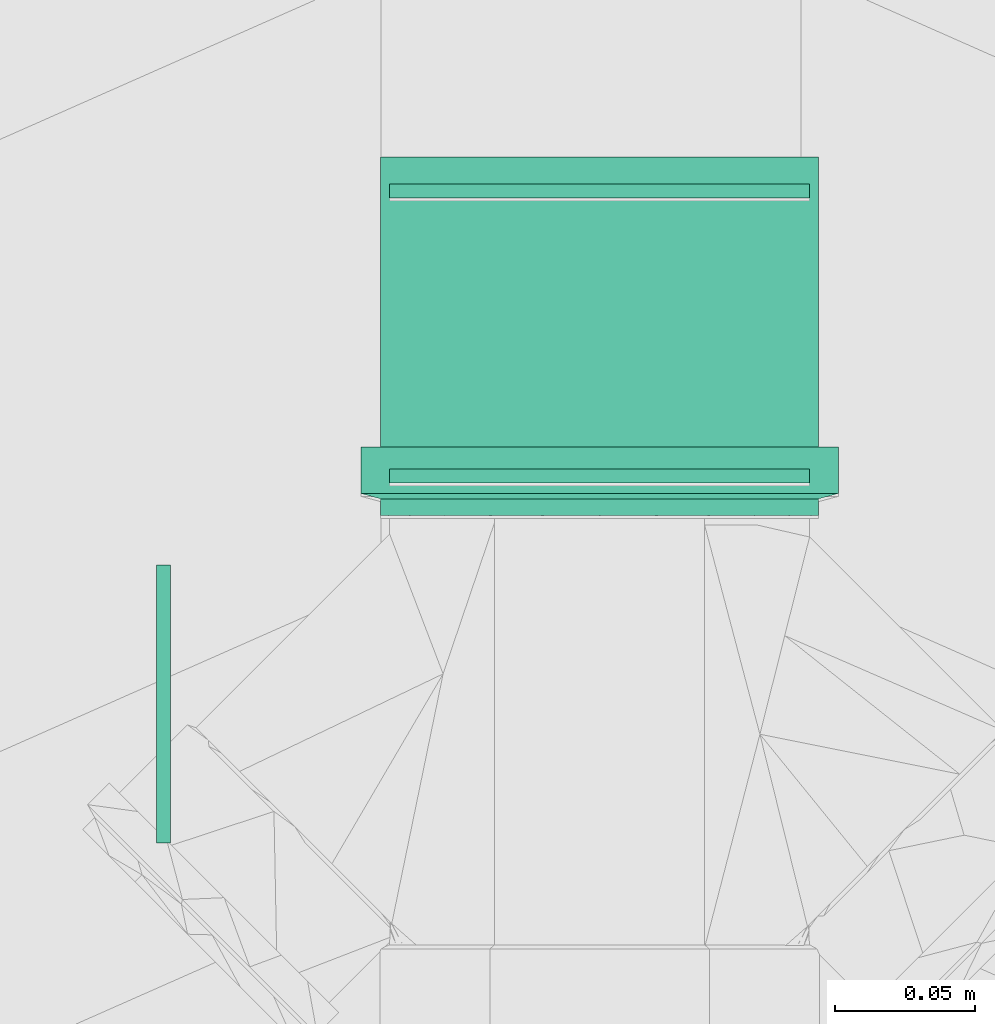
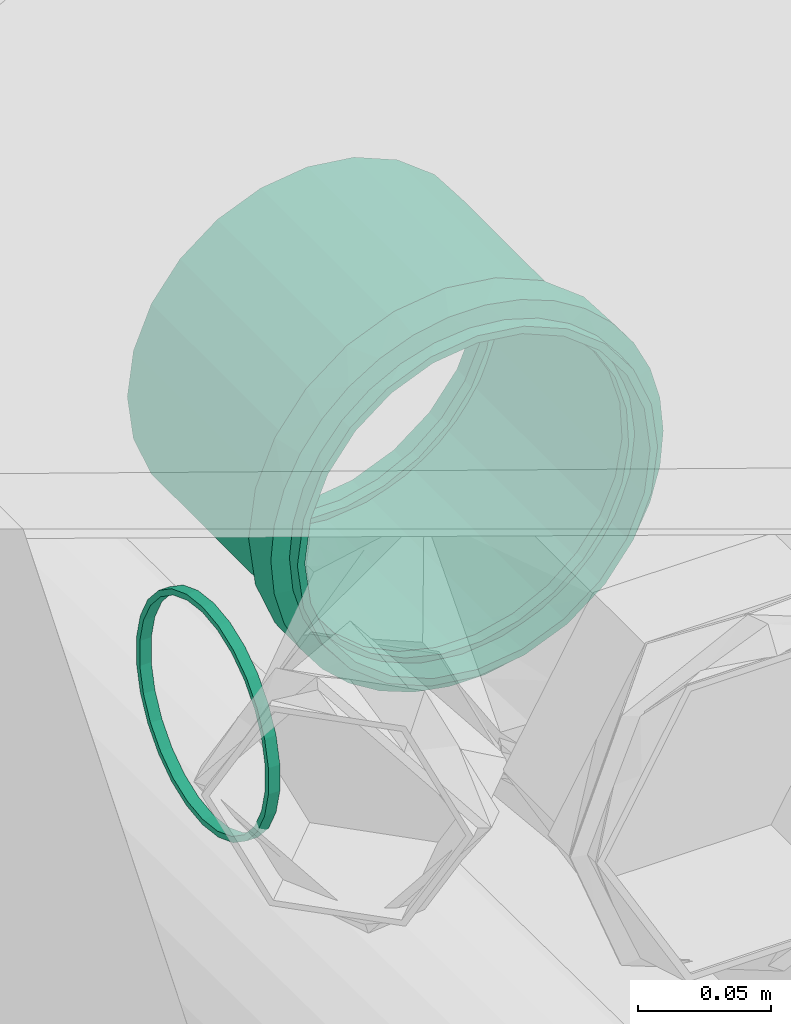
# One storey, part 104 of 166: 4 flow fittings.
"""IFC2X3 building model written with IfcOpenShell, lengths in metres."""

from ifc_helpers import new_model, entity, si_unit, converted_unit, direction, frame, frame_2d, origin, place, context, subcontext, project, spatial, hollow_circle, extrude, faceted_brep, source, transform, mapped, material, type_object, type_shapes, element, save


model = new_model("IFC2X3")

# Units and contexts
model_context = context("Model", 3, precision=1e-05, world=origin(), true_north=direction((6.123233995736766e-17, 1.0)))
body_context = subcontext(model_context, "Body", "Model", "MODEL_VIEW")
ifc_project = project(units=[si_unit("LENGTHUNIT", "METRE"), converted_unit("PLANEANGLEUNIT", "DEGREE", entity("IfcPlaneAngleMeasure", 0.017453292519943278), si_unit("PLANEANGLEUNIT", "RADIAN"), dimensions=[0, 0, 0, 0, 0, 0, 0]), si_unit("AREAUNIT", "SQUARE_METRE")], contexts=[model_context])

# Site, building, storey
site_placement = place(None, origin())
site = spatial("IfcSite", under=ifc_project, at=site_placement, Name="Default", CompositionType="ELEMENT")
building_placement = place(site_placement, origin())
building = spatial("IfcBuilding", under=site, at=building_placement, Name="CASA DE ACOLHIDA PARA IDOSOS", CompositionType="ELEMENT")
storey_placement = place(building_placement, frame((0.0, 0.0, -1.7499999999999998)))
storey = spatial("IfcBuildingStorey", under=building, at=storey_placement, Name="IMPLANTAÇÃO DRENAGEM", CompositionType="ELEMENT", Elevation=-1.7499999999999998)

# Flow fittings
ifc_material_1 = material(Name="PVC Bege Pérola")
pipe_fitting_type_1 = type_object("IfcPipeFittingType", Name="PLUV_Serie Reforcada_Luva Simples:Standard", PredefinedType="NOTDEFINED", material=ifc_material_1)
shared_shape_1 = source(origin(), body_context, "Body", "Brep", [
    faceted_brep([(0.02451000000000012, -0.039124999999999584, -0.06776648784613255), (0.02451000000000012, -0.06028085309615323, -0.06028085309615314), (0.02451000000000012, -0.04262500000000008, -0.07382866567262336), (0.02451000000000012, -0.020252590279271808, -0.0755836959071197), (0.02451000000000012, -0.05533110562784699, -0.055331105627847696), (0.02451000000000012, -0.07382866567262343, -0.04262499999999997), (0.02451000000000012, -0.06776648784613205, -0.03912500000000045), (0.02451000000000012, -0.07558369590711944, -0.02025259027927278), (0.02451000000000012, -0.08234517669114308, -0.022064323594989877), (0.02451000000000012, -0.07825, 0.0), (0.02451000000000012, -0.08525, 0.0), (0.02451000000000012, -0.07558369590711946, 0.020252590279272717), (0.02451000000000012, -0.0823451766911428, 0.022064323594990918), (0.02451000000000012, -0.06776648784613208, 0.039125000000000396), (0.02451000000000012, -0.07382866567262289, 0.04262500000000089), (0.02451000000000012, -0.05533110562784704, 0.055331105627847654), (0.02451000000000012, -0.06028085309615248, 0.0602808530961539), (0.02451000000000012, -0.03912499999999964, 0.06776648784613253), (0.02451000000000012, -0.04262499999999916, 0.07382866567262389), (0.02451000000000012, -0.020252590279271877, 0.07558369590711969), (0.02451000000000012, -0.02206432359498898, 0.08234517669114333), (0.02451000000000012, 0.0, 0.07825), (0.02451000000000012, 0.0, 0.08525), (0.02451000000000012, 0.020252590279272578, 0.0755836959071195), (0.02451000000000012, 0.022064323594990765, 0.08234517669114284), (0.02451000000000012, 0.03912500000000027, 0.06776648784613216), (0.02451000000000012, 0.042625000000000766, 0.07382866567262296), (0.02451000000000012, 0.05533110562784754, 0.055331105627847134), (0.02451000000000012, 0.0602808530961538, 0.06028085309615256), (0.02451000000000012, 0.06776648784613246, 0.03912499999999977), (0.02451000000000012, 0.07382866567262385, 0.042624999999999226), (0.02451000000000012, 0.08234517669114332, 0.02206432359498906), (0.02451000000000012, 0.07558369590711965, 0.020252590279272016), (0.02451000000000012, 0.08525, 0.0), (0.02451000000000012, 0.07825, 0.0), (0.02451000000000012, 0.08234517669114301, -0.022064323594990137), (0.02451000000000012, 0.07558369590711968, -0.020252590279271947), (0.02451000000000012, 0.07382866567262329, -0.04262500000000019), (0.02451000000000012, 0.0677664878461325, -0.03912499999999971), (0.02451000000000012, 0.060280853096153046, -0.060280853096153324), (0.02451000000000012, 0.05533110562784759, -0.055331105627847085), (0.02451000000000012, 0.042624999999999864, -0.0738286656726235), (0.02451000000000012, 0.039125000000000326, -0.06776648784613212), (0.02451000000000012, 0.02206432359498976, -0.08234517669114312), (0.02451000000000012, 0.02025259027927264, -0.07558369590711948), (0.02451000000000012, 0.0, -0.08525), (0.02451000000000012, 0.0, -0.07825), (0.02451000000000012, -0.022064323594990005, -0.08234517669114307), (0.007830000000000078, 0.08379835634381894, 0.01566518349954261), (0.007830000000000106, 0.07949286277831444, 0.03079687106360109), (0.007830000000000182, 0.05137242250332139, 0.06803261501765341), (0.007830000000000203, 0.03799626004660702, 0.07631413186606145), (0.007830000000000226, 0.00786152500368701, 0.08488674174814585), (0.00783000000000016, 0.06299903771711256, 0.057434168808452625), (0.007830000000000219, 0.023326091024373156, 0.08199668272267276), (0.007830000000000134, 0.07248014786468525, 0.044879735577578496), (0.00783000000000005, 0.08525, 0.0), (0.00783000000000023, -0.007870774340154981, 0.08488588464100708), (0.007830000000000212, -0.03800457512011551, 0.07630999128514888), (0.007830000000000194, -0.05137983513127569, 0.06802701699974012), (0.007830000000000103, -0.07949621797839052, 0.030788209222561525), (0.007830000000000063, -0.08380006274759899, 0.015656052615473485), (0.007830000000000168, -0.06300529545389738, 0.05742730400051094), (0.00783000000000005, -0.08525, 0.0), (0.007830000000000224, -0.023335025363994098, 0.08199414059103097), (0.007830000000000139, -0.07248503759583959, 0.04487183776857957), (0.007830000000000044, -0.08380006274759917, -0.015656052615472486), (0.007830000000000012, -0.07949621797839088, -0.03078820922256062), (0.00782999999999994, -0.05137983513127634, -0.06802701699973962), (0.007829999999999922, -0.038004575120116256, -0.07630999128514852), (0.007829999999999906, -0.007870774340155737, -0.084885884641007), (0.00782999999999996, -0.063005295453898, -0.05742730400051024), (0.007829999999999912, -0.023335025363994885, -0.08199414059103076), (0.007829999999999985, -0.07248503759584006, -0.04487183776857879), (0.007829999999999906, 0.007861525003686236, -0.0848867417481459), (0.007829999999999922, 0.037996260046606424, -0.07631413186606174), (0.007829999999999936, 0.05137242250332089, -0.06803261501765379), (0.00783, 0.07949286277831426, -0.030796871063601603), (0.007830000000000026, 0.08379835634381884, -0.015665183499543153), (0.007829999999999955, 0.06299903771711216, -0.057434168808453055), (0.007829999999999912, 0.023326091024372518, -0.08199668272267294), (0.007829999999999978, 0.07248014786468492, -0.044879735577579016), (0.1280100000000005, -0.0374999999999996, -0.06495190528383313), (0.1280100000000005, -0.055331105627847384, -0.05533110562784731), (0.1280100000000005, -0.03912500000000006, -0.06776648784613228), (0.1280100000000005, -0.01941142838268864, -0.07244443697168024), (0.1280100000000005, -0.05303300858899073, -0.053033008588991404), (0.1280100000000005, -0.06776648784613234, -0.039124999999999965), (0.1280100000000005, -0.06495190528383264, -0.03750000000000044), (0.1280100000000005, -0.07244443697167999, -0.01941142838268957), (0.1280100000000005, -0.07558369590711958, -0.020252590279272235), (0.1280100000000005, -0.07500000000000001, 0.0), (0.1280100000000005, -0.07825, 0.0), (0.1280100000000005, -0.07244443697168, 0.019411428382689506), (0.1280100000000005, -0.07558369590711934, 0.020252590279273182), (0.1280100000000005, -0.06495190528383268, 0.03750000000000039), (0.1280100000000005, -0.06776648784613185, 0.03912500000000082), (0.1280100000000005, -0.05303300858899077, 0.05303300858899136), (0.1280100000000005, -0.0553311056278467, 0.055331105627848), (0.1280100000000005, -0.03749999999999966, 0.0649519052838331), (0.1280100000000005, -0.039124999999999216, 0.06776648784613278), (0.1280100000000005, -0.0194114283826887, 0.07244443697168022), (0.1280100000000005, -0.020252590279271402, 0.07558369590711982), (0.1280100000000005, 0.0, 0.07500000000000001), (0.1280100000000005, 0.0, 0.07825), (0.1280100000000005, 0.019411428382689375, 0.07244443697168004), (0.1280100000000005, 0.020252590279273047, 0.07558369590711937), (0.1280100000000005, 0.03750000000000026, 0.06495190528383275), (0.1280100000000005, 0.039125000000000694, 0.06776648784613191), (0.1280100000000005, 0.05303300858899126, 0.05303300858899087), (0.1280100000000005, 0.055331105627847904, 0.05533110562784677), (0.1280100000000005, 0.06495190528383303, 0.037499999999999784), (0.1280100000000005, 0.06776648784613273, 0.039124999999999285), (0.1280100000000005, 0.0755836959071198, 0.02025259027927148), (0.1280100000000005, 0.07244443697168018, 0.019411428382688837), (0.1280100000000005, 0.07825, 0.0), (0.1280100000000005, 0.07500000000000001, 0.0), (0.1280100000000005, 0.07558369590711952, -0.020252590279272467), (0.1280100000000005, 0.0724444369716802, -0.01941142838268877), (0.1280100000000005, 0.06776648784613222, -0.039125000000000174), (0.1280100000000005, 0.06495190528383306, -0.03749999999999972), (0.1280100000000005, 0.05533110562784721, -0.05533110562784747), (0.1280100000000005, 0.053033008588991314, -0.05303300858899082), (0.1280100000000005, 0.03912499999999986, -0.0677664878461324), (0.1280100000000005, 0.03750000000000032, -0.06495190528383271), (0.1280100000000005, 0.02025259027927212, -0.07558369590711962), (0.1280100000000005, 0.019411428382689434, -0.07244443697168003), (0.1280100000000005, 0.0, -0.07825), (0.1280100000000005, 0.0, -0.07500000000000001), (0.1280100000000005, -0.020252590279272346, -0.07558369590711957), (0.0, -0.03912500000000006, -0.06776648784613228), (0.0, -0.055331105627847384, -0.05533110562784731), (0.0, -0.0374999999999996, -0.06495190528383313), (0.0, -0.01941142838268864, -0.07244443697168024), (0.0, -0.020252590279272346, -0.07558369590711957), (0.0, -0.05303300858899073, -0.053033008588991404), (0.0, -0.06776648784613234, -0.039124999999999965), (0.0, -0.06495190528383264, -0.03750000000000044), (0.0, -0.07244443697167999, -0.01941142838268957), (0.0, -0.07558369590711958, -0.020252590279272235), (0.0, -0.07500000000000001, 0.0), (0.0, -0.07825, 0.0), (0.0, -0.07244443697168, 0.019411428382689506), (0.0, -0.07558369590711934, 0.020252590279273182), (0.0, -0.06495190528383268, 0.03750000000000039), (0.0, -0.06776648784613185, 0.03912500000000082), (0.0, -0.05303300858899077, 0.05303300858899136), (0.0, -0.0553311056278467, 0.055331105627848), (0.0, -0.03749999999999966, 0.0649519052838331), (0.0, -0.039124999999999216, 0.06776648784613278), (0.0, -0.0194114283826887, 0.07244443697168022), (0.0, -0.020252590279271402, 0.07558369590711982), (0.0, 0.0, 0.07500000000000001), (0.0, 0.0, 0.07825), (0.0, 0.019411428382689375, 0.07244443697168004), (0.0, 0.020252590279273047, 0.07558369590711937), (0.0, 0.03750000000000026, 0.06495190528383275), (0.0, 0.039125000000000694, 0.06776648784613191), (0.0, 0.05303300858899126, 0.05303300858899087), (0.0, 0.055331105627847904, 0.05533110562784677), (0.0, 0.06495190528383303, 0.037499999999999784), (0.0, 0.06776648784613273, 0.039124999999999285), (0.0, 0.0755836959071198, 0.02025259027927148), (0.0, 0.07244443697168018, 0.019411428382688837), (0.0, 0.07825, 0.0), (0.0, 0.07500000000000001, 0.0), (0.0, 0.07558369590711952, -0.020252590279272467), (0.0, 0.0724444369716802, -0.01941142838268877), (0.0, 0.06776648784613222, -0.039125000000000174), (0.0, 0.06495190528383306, -0.03749999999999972), (0.0, 0.05533110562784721, -0.05533110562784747), (0.0, 0.053033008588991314, -0.05303300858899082), (0.0, 0.03912499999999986, -0.0677664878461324), (0.0, 0.03750000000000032, -0.06495190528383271), (0.0, 0.02025259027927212, -0.07558369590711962), (0.0, 0.019411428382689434, -0.07244443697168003), (0.0, 0.0, -0.07825), (0.0, 0.0, -0.07500000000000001), (0.0059500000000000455, 0.07825, 0.0), (0.005950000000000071, 0.07674636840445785, 0.015266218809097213), (0.005950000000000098, 0.0722932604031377, 0.02994573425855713), (0.005950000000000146, 0.05532994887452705, 0.05533226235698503), (0.005950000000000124, 0.06506181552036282, 0.043474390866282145), (0.005950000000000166, 0.04347167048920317, 0.06506363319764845), (0.005950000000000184, 0.029942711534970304, 0.07229451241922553), (0.005950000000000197, 0.015263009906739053, 0.07674700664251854), (0.005950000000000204, -3.271758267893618e-06, 0.07824999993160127), (0.005950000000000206, -0.015269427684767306, 0.07674573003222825), (0.005950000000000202, -0.029948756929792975, 0.07229200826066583), (0.005950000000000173, -0.055334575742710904, 0.05532763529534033), (0.00595000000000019, -0.04347711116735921, 0.0650599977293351), (0.0059500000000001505, -0.06506545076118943, 0.043468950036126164), (0.005950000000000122, -0.07229576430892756, 0.02993968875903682), (0.0059500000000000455, -0.07825, 0.0), (0.005950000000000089, -0.07674764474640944, 0.015259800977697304), (0.0059499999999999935, -0.07674764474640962, -0.015259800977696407), (0.005949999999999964, -0.0722957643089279, -0.02993968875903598), (0.005949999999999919, -0.05533457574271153, -0.05532763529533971), (0.005949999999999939, -0.06506545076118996, -0.04346895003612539), (0.005949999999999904, -0.04347711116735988, -0.06505999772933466), (0.005949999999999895, -0.029948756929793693, -0.07229200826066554), (0.00594999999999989, -0.015269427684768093, -0.0767457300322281), (0.005949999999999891, -3.2717582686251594e-06, -0.07824999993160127), (0.005949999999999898, 0.015263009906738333, -0.07674700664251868), (0.00594999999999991, 0.029942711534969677, -0.0722945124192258), (0.005949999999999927, 0.04347167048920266, -0.0650636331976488), (0.00594999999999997, 0.06506181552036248, -0.043474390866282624), (0.005949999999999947, 0.055329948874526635, -0.055332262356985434), (0.005949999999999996, 0.0722932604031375, -0.02994573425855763), (0.00595000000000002, 0.07674636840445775, -0.015266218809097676), (0.06700000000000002, 0.07500000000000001, 0.0), (0.067, -0.07500000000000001, 0.0)], [[[0, 1, 2]], [[3, 0, 2]], [[4, 1, 0]], [[1, 4, 5]], [[6, 5, 4]], [[7, 5, 6]], [[5, 7, 8]], [[7, 9, 8]], [[10, 8, 9]], [[10, 9, 11]], [[11, 12, 10]], [[13, 12, 11]], [[12, 13, 14]], [[15, 14, 13]], [[16, 14, 15]], [[16, 15, 17]], [[17, 18, 16]], [[19, 18, 17]], [[18, 19, 20]], [[21, 20, 19]], [[22, 20, 21]], [[23, 22, 21]], [[24, 22, 23]], [[25, 24, 23]], [[24, 25, 26]], [[25, 27, 26]], [[28, 26, 27]], [[27, 29, 28]], [[28, 29, 30]], [[31, 30, 29]], [[29, 32, 31]], [[31, 32, 33]], [[32, 34, 33]], [[33, 34, 35]], [[34, 36, 35]], [[37, 35, 36]], [[36, 38, 37]], [[39, 37, 38]], [[40, 39, 38]], [[40, 41, 39]], [[42, 41, 40]], [[43, 41, 42]], [[42, 44, 43]], [[43, 44, 45]], [[44, 46, 45]], [[46, 3, 47]], [[45, 46, 47]], [[2, 47, 3]], [[33, 48, 31]], [[31, 49, 30]], [[26, 28, 50]], [[51, 24, 26]], [[22, 24, 52]], [[53, 28, 30]], [[24, 54, 52]], [[30, 49, 55]], [[31, 48, 49]], [[33, 56, 48]], [[26, 50, 51]], [[50, 28, 53]], [[30, 55, 53]], [[54, 24, 51]], [[22, 57, 20]], [[18, 20, 58]], [[59, 16, 18]], [[12, 14, 60]], [[61, 10, 12]], [[62, 14, 16]], [[61, 63, 10]], [[18, 58, 59]], [[20, 64, 58]], [[20, 57, 64]], [[14, 65, 60]], [[65, 14, 62]], [[16, 59, 62]], [[61, 12, 60]], [[52, 57, 22]], [[10, 66, 8]], [[8, 67, 5]], [[2, 1, 68]], [[69, 47, 2]], [[45, 47, 70]], [[71, 1, 5]], [[47, 72, 70]], [[5, 67, 73]], [[8, 66, 67]], [[10, 63, 66]], [[2, 68, 69]], [[68, 1, 71]], [[5, 73, 71]], [[72, 47, 69]], [[45, 74, 43]], [[41, 43, 75]], [[76, 39, 41]], [[77, 35, 37]], [[33, 35, 78]], [[78, 56, 33]], [[79, 37, 39]], [[35, 77, 78]], [[41, 75, 76]], [[43, 80, 75]], [[43, 74, 80]], [[81, 37, 79]], [[39, 76, 79]], [[37, 81, 77]], [[70, 74, 45]], [[82, 83, 84]], [[85, 82, 84]], [[86, 83, 82]], [[83, 86, 87]], [[88, 87, 86]], [[89, 87, 88]], [[87, 89, 90]], [[89, 91, 90]], [[92, 90, 91]], [[92, 91, 93]], [[93, 94, 92]], [[95, 94, 93]], [[94, 95, 96]], [[97, 96, 95]], [[98, 96, 97]], [[98, 97, 99]], [[99, 100, 98]], [[101, 100, 99]], [[100, 101, 102]], [[103, 102, 101]], [[104, 102, 103]], [[105, 104, 103]], [[106, 104, 105]], [[107, 106, 105]], [[106, 107, 108]], [[108, 107, 109]], [[110, 108, 109]], [[109, 111, 110]], [[110, 111, 112]], [[113, 112, 111]], [[111, 114, 113]], [[113, 114, 115]], [[114, 116, 115]], [[115, 116, 117]], [[116, 118, 117]], [[119, 117, 118]], [[118, 120, 119]], [[121, 119, 120]], [[122, 121, 120]], [[122, 123, 121]], [[123, 122, 124]], [[125, 123, 124]], [[124, 126, 125]], [[125, 126, 127]], [[126, 128, 127]], [[128, 85, 129]], [[127, 128, 129]], [[84, 129, 85]], [[130, 131, 132]], [[130, 132, 133]], [[133, 134, 130]], [[132, 131, 135]], [[136, 135, 131]], [[135, 136, 137]], [[137, 136, 138]], [[139, 138, 136]], [[139, 140, 138]], [[140, 139, 141]], [[142, 140, 141]], [[141, 143, 142]], [[142, 143, 144]], [[145, 144, 143]], [[144, 145, 146]], [[146, 145, 147]], [[148, 146, 147]], [[147, 149, 148]], [[148, 149, 150]], [[151, 150, 149]], [[150, 151, 152]], [[152, 151, 153]], [[152, 153, 154]], [[154, 153, 155]], [[154, 155, 156]], [[157, 156, 155]], [[158, 156, 157]], [[158, 157, 159]], [[159, 160, 158]], [[161, 160, 159]], [[160, 161, 162]], [[162, 163, 160]], [[164, 163, 162]], [[164, 165, 163]], [[166, 165, 164]], [[166, 167, 165]], [[167, 166, 168]], [[168, 169, 167]], [[169, 168, 170]], [[169, 170, 171]], [[170, 172, 171]], [[173, 171, 172]], [[173, 172, 174]], [[174, 175, 173]], [[176, 175, 174]], [[134, 177, 176]], [[176, 177, 175]], [[134, 133, 177]], [[178, 164, 179]], [[179, 162, 180]], [[181, 182, 159]], [[159, 183, 181]], [[161, 182, 180]], [[183, 157, 184]], [[182, 161, 159]], [[180, 162, 161]], [[179, 164, 162]], [[155, 153, 185]], [[186, 185, 153]], [[155, 184, 157]], [[183, 159, 157]], [[184, 155, 185]], [[187, 153, 151]], [[187, 151, 188]], [[189, 190, 147]], [[147, 191, 189]], [[149, 190, 188]], [[191, 145, 192]], [[191, 147, 145]], [[190, 149, 147]], [[188, 151, 149]], [[141, 193, 194]], [[194, 143, 141]], [[192, 145, 143]], [[143, 194, 192]], [[186, 153, 187]], [[193, 141, 195]], [[195, 139, 196]], [[197, 198, 131]], [[131, 199, 197]], [[136, 198, 196]], [[199, 130, 200]], [[198, 136, 131]], [[196, 139, 136]], [[195, 141, 139]], [[176, 201, 134]], [[134, 200, 130]], [[176, 202, 201]], [[199, 131, 130]], [[200, 134, 201]], [[203, 174, 204]], [[204, 172, 205]], [[206, 207, 170]], [[208, 206, 168]], [[170, 207, 205]], [[209, 208, 166]], [[205, 172, 170]], [[204, 174, 172]], [[203, 176, 174]], [[209, 166, 164]], [[166, 208, 168]], [[206, 170, 168]], [[178, 209, 164]], [[202, 176, 203]], [[206, 208, 81]], [[78, 209, 178]], [[77, 208, 209]], [[75, 204, 205]], [[205, 207, 76]], [[206, 79, 207]], [[204, 80, 203]], [[77, 209, 78]], [[78, 178, 56]], [[81, 208, 77]], [[203, 80, 74]], [[207, 79, 76]], [[205, 76, 75]], [[204, 75, 80]], [[79, 206, 81]], [[74, 202, 203]], [[200, 201, 72]], [[202, 70, 201]], [[200, 69, 199]], [[67, 195, 196]], [[196, 198, 73]], [[71, 198, 197]], [[199, 68, 197]], [[193, 195, 66]], [[199, 69, 68]], [[201, 70, 72]], [[200, 72, 69]], [[193, 66, 63]], [[198, 71, 73]], [[196, 73, 67]], [[195, 67, 66]], [[71, 197, 68]], [[74, 70, 202]], [[191, 192, 65]], [[61, 194, 193]], [[60, 192, 194]], [[58, 188, 190]], [[190, 189, 59]], [[191, 62, 189]], [[188, 64, 187]], [[60, 194, 61]], [[61, 193, 63]], [[65, 192, 60]], [[187, 64, 57]], [[189, 62, 59]], [[190, 59, 58]], [[188, 58, 64]], [[62, 191, 65]], [[57, 186, 187]], [[184, 185, 54]], [[186, 52, 185]], [[184, 51, 183]], [[49, 179, 180]], [[180, 182, 55]], [[53, 182, 181]], [[183, 50, 181]], [[178, 179, 48]], [[183, 51, 50]], [[185, 52, 54]], [[184, 54, 51]], [[178, 48, 56]], [[182, 53, 55]], [[180, 55, 49]], [[179, 49, 48]], [[53, 181, 50]], [[57, 52, 186]], [[113, 115, 34, 32]], [[113, 32, 29, 112]], [[108, 110, 27, 25]], [[27, 110, 112, 29]], [[106, 108, 25, 23]], [[23, 21, 104, 106]], [[100, 102, 19, 17]], [[100, 17, 15, 98]], [[94, 96, 13, 11]], [[13, 96, 98, 15]], [[92, 94, 11, 9]], [[104, 21, 19, 102]], [[90, 92, 9, 7]], [[90, 7, 6, 87]], [[3, 129, 84, 0]], [[4, 0, 84, 83]], [[83, 87, 6, 4]], [[3, 46, 127, 129]], [[123, 125, 44, 42]], [[123, 42, 40, 121]], [[117, 119, 38, 36]], [[38, 119, 121, 40]], [[115, 117, 36, 34]], [[127, 46, 44, 125]], [[210, 116, 114, 163, 165]], [[109, 107, 156, 158]], [[158, 160, 111, 109]], [[160, 163, 114, 111]], [[154, 156, 107, 105]], [[105, 103, 152, 154]], [[150, 152, 103, 101]], [[99, 148, 150, 101]], [[95, 93, 142, 144]], [[144, 146, 97, 95]], [[146, 148, 99, 97]], [[211, 140, 142, 93, 91]], [[91, 89, 138, 140, 211]], [[86, 82, 132, 135]], [[138, 89, 88, 137]], [[86, 135, 137, 88]], [[133, 132, 82, 85]], [[85, 128, 177, 133]], [[175, 177, 128, 126]], [[124, 173, 175, 126]], [[120, 118, 167, 169]], [[169, 171, 122, 120]], [[171, 173, 124, 122]], [[210, 165, 167, 118, 116]]]),
])
type_shapes(pipe_fitting_type_1, [shared_shape_1])
flow_fitting_1_placement = place(storey_placement, frame((-21.978238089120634, 43.90059344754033, -1.0), z_axis=(0.0, 0.0, -1.0), x_axis=(0.0, 1.0, 0.0)))
element("IfcFlowFitting", 1, at=flow_fitting_1_placement, inside=storey, type_object=pipe_fitting_type_1, material=ifc_material_1, Name="PLUV_Serie Reforcada_Luva Simples:Standard", ObjectType="PLUV_Serie Reforcada_Luva Simples:Standard", context=body_context, shape_type="MappedRepresentation", body=[
    mapped(shared_shape_1, transform((0.0, 0.0, 0.0), scale=1.0)),
])
ifc_material_2 = material(Name="Borracha")
pipe_fitting_type_2 = type_object("IfcPipeFittingType", Name="AN_PLUV_Anel de vedação para Conexão Série R:AN_PLUV_Anel de vedação para Conexão Série R", PredefinedType="NOTDEFINED", material=ifc_material_2)
shared_shape_2 = source(origin(), body_context, "Body", "SweptSolid", [
    extrude(hollow_circle(Radius=0.05, WallThickness=0.0024999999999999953, at=frame_2d((2.979563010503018e-18, -2.251062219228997e-16), x_axis=(1.0, 0.0))), frame((0.0, 0.0, -0.004999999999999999)), (0.0, 0.0, 1.0), 0.004999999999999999),
])
type_shapes(pipe_fitting_type_2, [shared_shape_2])
flow_fitting_2_placement = place(storey_placement, frame((-22.131584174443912, 43.83327736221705, -1.0), z_axis=(1.0, 0.0, 0.0), x_axis=(0.0, 0.0, 1.0)))
element("IfcFlowFitting", 2, at=flow_fitting_2_placement, inside=storey, type_object=pipe_fitting_type_2, material=ifc_material_2, Name="AN_PLUV_Anel de vedação para Conexão Série R:AN_PLUV_Anel de vedação para Conexão Série R", ObjectType="AN_PLUV_Anel de vedação para Conexão Série R:AN_PLUV_Anel de vedação para Conexão Série R", context=body_context, shape_type="MappedRepresentation", body=[
    mapped(shared_shape_2, transform((0.0, 0.0, 0.0), scale=1.0)),
])
pipe_fitting_type_3 = type_object("IfcPipeFittingType", Name="AN_PLUV_Anel de vedação para Conexão Série R:AN_PLUV_Anel de vedação para Conexão Série R", PredefinedType="NOTDEFINED", material=ifc_material_2)
shared_shape_3 = source(origin(), body_context, "Body", "SweptSolid", [
    extrude(hollow_circle(Radius=0.07500000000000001, WallThickness=0.0025000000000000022, at=frame_2d((2.979563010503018e-18, -3.3765933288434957e-16), x_axis=(1.0, 0.0))), frame((0.0, 0.0, -0.004999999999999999)), (0.0, 0.0, 1.0), 0.004999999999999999),
])
type_shapes(pipe_fitting_type_3, [shared_shape_3])
for number, where, z_axis, x_axis in (
    (3, (-21.978238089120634, 44.01394344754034, -1.0), (0.0, -1.0, 0.0), (0.0, 0.0, 1.0)),
    (4, (-21.978238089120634, 43.91719344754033, -1.0), (0.0, 1.0, 0.0), (0.0, 0.0, 1.0)),
):
    element("IfcFlowFitting", number, at=place(storey_placement, frame(where, z_axis=z_axis, x_axis=x_axis)), inside=storey, type_object=pipe_fitting_type_3, material=ifc_material_2, Name="AN_PLUV_Anel de vedação para Conexão Série R:AN_PLUV_Anel de vedação para Conexão Série R", ObjectType="AN_PLUV_Anel de vedação para Conexão Série R:AN_PLUV_Anel de vedação para Conexão Série R", context=body_context, shape_type="MappedRepresentation", body=[
        mapped(shared_shape_3, transform((0.0, 0.0, 0.0), scale=1.0)),
    ])

save(model, "model.ifc")
